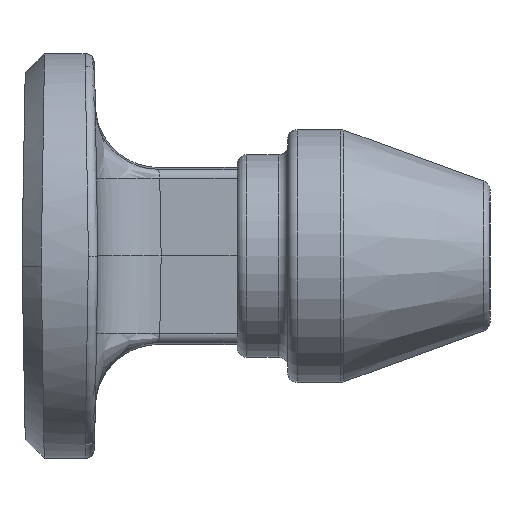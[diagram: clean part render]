
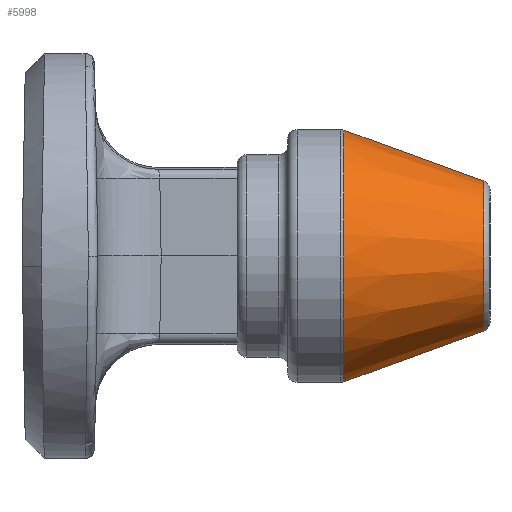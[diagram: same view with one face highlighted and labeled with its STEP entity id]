
A CAD part, left-side view. The second image highlights one B-rep face of the part: STEP entity #5998.
In plain terms, the highlighted conical face has half-angle 20 degrees and reference radius 1.588 mm.
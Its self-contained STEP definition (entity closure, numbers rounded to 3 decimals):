
#1685=CARTESIAN_POINT('',(-7.9,-3.889,0.));
#1686=DIRECTION('',(0.,1.,0.));
#1687=DIRECTION('',(0.,0.,-1.));
#1688=AXIS2_PLACEMENT_3D('',#1685,#1686,#1687);
#1705=DIRECTION('',(0.,-0.94,-0.342));
#1706=VECTOR('',#1705,2.354);
#1707=CARTESIAN_POINT('',(-7.9,-3.889,
1.991));
#1708=LINE('',#1707,#1706);
#1724=CARTESIAN_POINT('',(-7.9,-6.101,0.));
#1725=DIRECTION('',(0.,-1.,0.));
#1726=DIRECTION('',(0.,0.,1.));
#1727=AXIS2_PLACEMENT_3D('',#1724,#1725,#1726);
#1739=DIRECTION('',(0.,-0.94,0.342));
#1740=VECTOR('',#1739,2.354);
#1741=CARTESIAN_POINT('',(-7.9,-3.889,
-1.991));
#1742=LINE('',#1741,#1740);
#1845=CARTESIAN_POINT('',(-7.9,-6.101,
-1.186));
#1846=CARTESIAN_POINT('',(-7.9,-6.101,
1.186));
#1847=VERTEX_POINT('',#1845);
#1848=VERTEX_POINT('',#1846);
#1926=CARTESIAN_POINT('',(-7.9,-3.889,
-1.991));
#1927=VERTEX_POINT('',#1926);
#1933=CARTESIAN_POINT('',(-7.9,-3.889,
1.991));
#1935=VERTEX_POINT('',#1933);
#5987=CARTESIAN_POINT('',(-7.9,-4.995,0.));
#5988=DIRECTION('',(0.,1.,0.));
#5989=DIRECTION('',(0.,0.,1.));
#5990=AXIS2_PLACEMENT_3D('',#5987,#5988,#5989);
#5991=CONICAL_SURFACE('',#5990,1.588,20.);
#5992=ORIENTED_EDGE('',*,*,#5943,.F.);
#5993=ORIENTED_EDGE('',*,*,#5915,.T.);
#5994=ORIENTED_EDGE('',*,*,#5940,.T.);
#5995=ORIENTED_EDGE('',*,*,#5972,.T.);
#5996=EDGE_LOOP('',(#5992,#5993,#5994,#5995));
#5997=FACE_OUTER_BOUND('',#5996,.F.);
#5998=ADVANCED_FACE('',(#5997),#5991,.T.);
#1689=CIRCLE('',#1688,1.991);
#1728=CIRCLE('',#1727,1.186);
#5915=EDGE_CURVE('',#1927,#1935,#1689,.T.);
#5940=EDGE_CURVE('',#1935,#1848,#1708,.T.);
#5943=EDGE_CURVE('',#1927,#1847,#1742,.T.);
#5972=EDGE_CURVE('',#1848,#1847,#1728,.T.);
